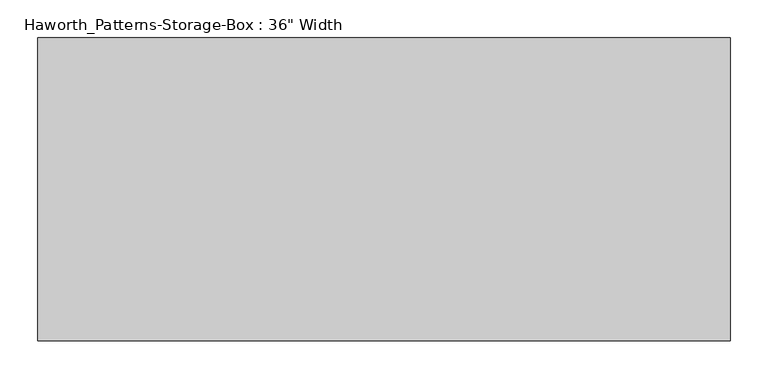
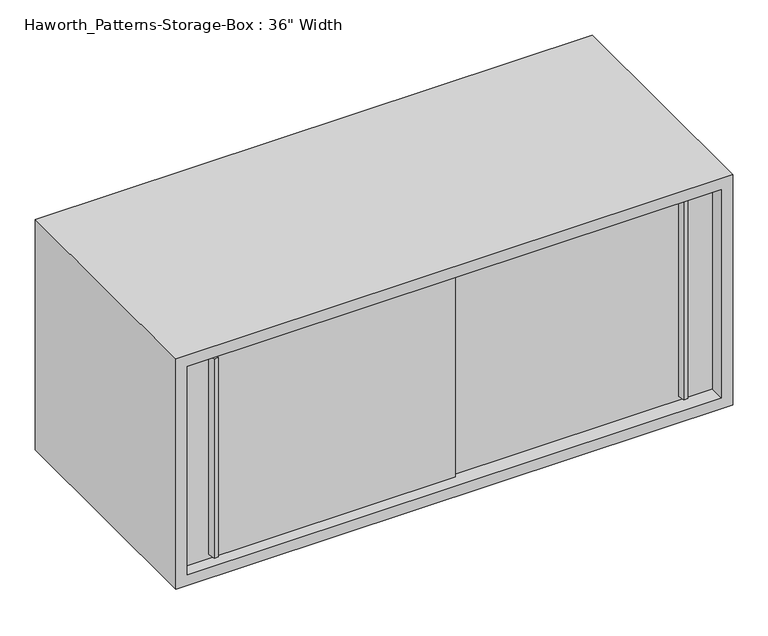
"""IFC4 building model written with IfcOpenShell, lengths in millimetres: furniture geometry."""

from ifc_helpers import new_model, si_unit, frame, origin, place, context, project, spatial, polyline, outline, extrude, source, transform, mapped, element, save


def furniture_8fc70b79(model_context):
    return source(origin(), model_context, "Body", "SweptSolid", [
        extrude(outline(polyline([(555.6250004, -387.3499879), (549.2749996, -387.3499879), (547.6875011, -374.65), (557.2124989, -374.65), (555.6250004, -387.3499879)])), frame((0.0, 0.0, 782.6375), z_axis=(0.0, 0.0, 1.0), x_axis=(1.0, 0.0, 0.0)), (0.0, 0.0, 1.0), 346.075),
        extrude(outline(polyline([(-219.0749996, -393.6999879), (-225.4250004, -393.6999879), (-227.0124989, -381.0), (-217.4875011, -381.0), (-219.0749996, -393.6999879)])), frame((0.0, 0.0, 782.6375), z_axis=(0.0, 0.0, 1.0), x_axis=(1.0, 0.0, 0.0)), (0.0, 0.0, 1.0), 346.075),
        extrude(outline(polyline([(-273.05, -374.65), (177.8, -374.65), (177.8, -381.0), (-273.05, -381.0), (-273.05, -374.65)])), frame((0.0, 0.0, 774.7), z_axis=(0.0, 0.0, 1.0), x_axis=(1.0, 0.0, 0.0)), (0.0, 0.0, 1.0), 361.95),
        extrude(outline(polyline([(152.4, -368.3), (603.25, -368.3), (603.25, -374.65), (152.4, -374.65), (152.4, -368.3)])), frame((0.0, 0.0, 774.7), z_axis=(0.0, 0.0, 1.0), x_axis=(1.0, 0.0, 0.0)), (0.0, 0.0, 1.0), 361.95),
        extrude(outline(polyline([(603.25, -19.05), (-273.05, -19.05), (-273.05, 0.0), (603.25, 0.0), (603.25, -19.05)])), frame((0.0, 0.0, 774.7), z_axis=(0.0, 0.0, 1.0), x_axis=(1.0, 0.0, 0.0)), (0.0, 0.0, 1.0), 361.95),
        extrude(outline(polyline([(755.65, 622.3), (1155.7, 622.3), (1155.7, -292.1), (755.65, -292.1), (755.65, 622.3)]), holes=[polyline([(1136.65, 603.25), (774.7, 603.25), (774.7, -273.05), (1136.65, -273.05), (1136.65, 603.25)])]), frame((0.0, -400.05, 0.0), z_axis=(0.0, 1.0, 0.0), x_axis=(0.0, 0.0, 1.0)), (0.0, 0.0, 1.0), 400.05),
        extrude(outline(polyline([(-238.125, -346.075), (-238.125, -53.975), (568.325, -53.975), (568.325, -346.075), (-238.125, -346.075)])), frame((0.0, 0.0, 736.6), z_axis=(0.0, 0.0, 1.0), x_axis=(1.0, 0.0, 0.0)), (0.0, 0.0, 1.0), 19.05),
    ])


if __name__ == "__main__":
    model = new_model("IFC4")
    model_context = context("Model", 3, world=origin())
    ifc_project = project(units=[si_unit("LENGTHUNIT", "METRE", prefix="MILLI")], contexts=[model_context])
    site = spatial("IfcSite", under=ifc_project)
    building = spatial("IfcBuilding", under=site)
    placement = place(None, origin())
    furniture_shape = furniture_8fc70b79(model_context)
    element("IfcFurniture", 1, ObjectType="Haworth_Patterns-Storage-Box : 36\" Width", at=placement, inside=building, context=model_context, shape_type="MappedRepresentation", body=[
        mapped(furniture_shape, transform((0.0, 0.0, 0.0), x_axis=(1.0, 0.0, 0.0), y_axis=(0.0, 1.0, 0.0), z_axis=(0.0, 0.0, 1.0))),
    ])
    save(model, "model.ifc")
